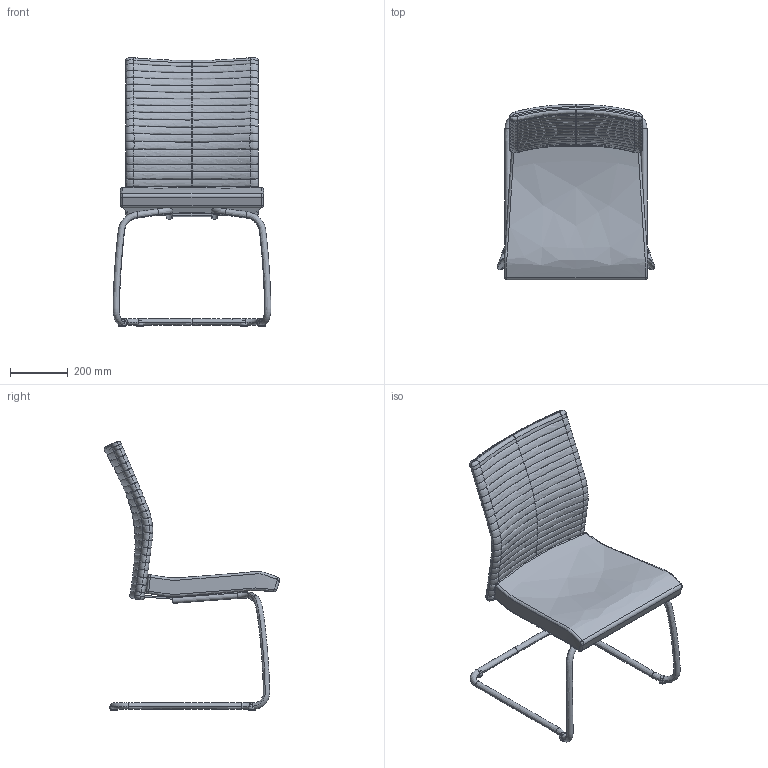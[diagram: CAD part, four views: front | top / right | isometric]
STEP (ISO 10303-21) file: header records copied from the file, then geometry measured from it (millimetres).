
FILE_DESCRIPTION(/* description */ (''),/* implementation_level */ '2;1');
FILE_NAME(/* name */ 'ELE77D~1',/* time_stamp */ '2017-07-18T23:39:57+02:00',/* author */ (''),/* organization */ (''),/* preprocessor_version */ 'ST-DEVELOPER v15',/* originating_system */ '',/* authorisation */ '');
FILE_SCHEMA (('CONFIG_CONTROL_DESIGN'));
Length unit declared in the file: millimetre
Products named in the file (1): Document
Bounding box: 547.12 x 607.36 x 931.67 mm (x, y, z)
Volume: 14553691.2 mm3; surface area: 1430642.9 mm2
Topology: 4 solids, 10 shells, 300 faces, 653 edges, 370 vertices
Faces by surface type: bspline 278, plane 22
Entity records: 25925 total; most frequent: CARTESIAN_POINT 21933, ORIENTED_EDGE 1188, EDGE_CURVE 650, B_SPLINE_CURVE_WITH_KNOTS 497, VERTEX_POINT 364, ADVANCED_FACE 300, FACE_OUTER_BOUND 300, EDGE_LOOP 300
